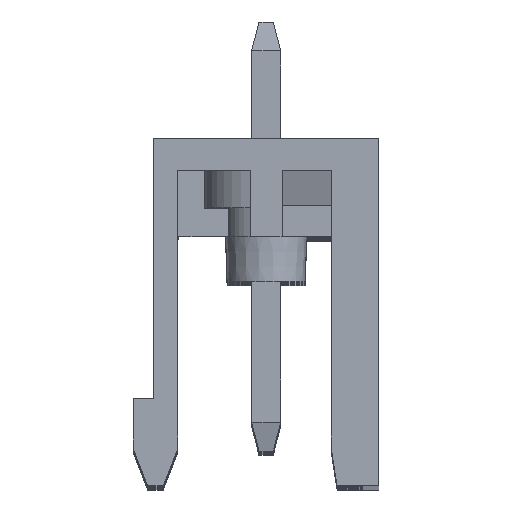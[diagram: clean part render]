
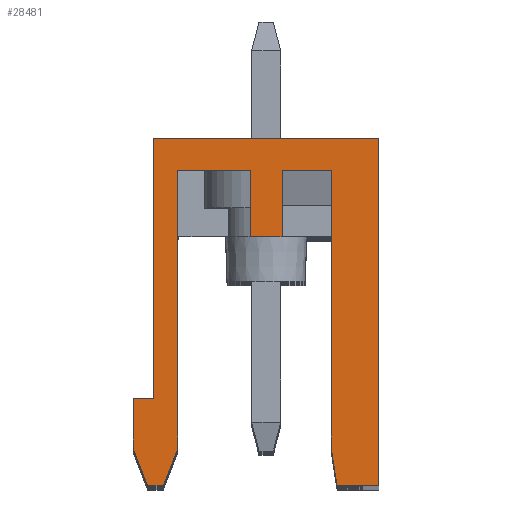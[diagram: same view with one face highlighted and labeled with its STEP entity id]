
A CAD part, top view. The second image highlights one B-rep face of the part: STEP entity #28481.
In plain terms, the highlighted planar face has unit normal (0, 0, 1).
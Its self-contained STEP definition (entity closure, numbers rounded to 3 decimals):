
#1059 = EDGE_CURVE ( 'NONE', #19224, #29034, #23728, .T. ) ;
#1220 = EDGE_CURVE ( 'NONE', #10906, #18423, #18345, .T. ) ;
#1261 = EDGE_CURVE ( 'NONE', #30268, #15527, #12116, .T. ) ;
#1555 = VERTEX_POINT ( 'NONE', #36991 ) ;
#2018 = DIRECTION ( 'NONE',  ( 0., 0., 1. ) ) ;
#2254 = DIRECTION ( 'NONE',  ( 1., 0., 0. ) ) ;
#2592 = CARTESIAN_POINT ( 'NONE',  ( 2.25, 1.3, 86.36 ) ) ;
#2601 = ORIENTED_EDGE ( 'NONE', *, *, #22480, .T. ) ;
#3141 = DIRECTION ( 'NONE',  ( 0., 1., 0. ) ) ;
#3703 = CARTESIAN_POINT ( 'NONE',  ( -3.9, 3., 86.36 ) ) ;
#3908 = DIRECTION ( 'NONE',  ( -1., 0., 0. ) ) ;
#3978 = ORIENTED_EDGE ( 'NONE', *, *, #20983, .T. ) ;
#5075 = LINE ( 'NONE', #31034, #31470 ) ;
#5295 = LINE ( 'NONE', #8090, #38899 ) ;
#5408 = VERTEX_POINT ( 'NONE', #7113 ) ;
#5612 = CARTESIAN_POINT ( 'NONE',  ( -4.1, 0., 86.36 ) ) ;
#5714 = CARTESIAN_POINT ( 'NONE',  ( -4.6, 1.3, 86.36 ) ) ;
#5752 = ORIENTED_EDGE ( 'NONE', *, *, #15881, .T. ) ;
#6458 = LINE ( 'NONE', #9880, #26786 ) ;
#7113 = CARTESIAN_POINT ( 'NONE',  ( -3.9, 12., 86.36 ) ) ;
#7510 = CARTESIAN_POINT ( 'NONE',  ( 0.55, 8.6, 86.36 ) ) ;
#8090 = CARTESIAN_POINT ( 'NONE',  ( -4.1, 0., 86.36 ) ) ;
#8878 = PLANE ( 'NONE',  #21502 ) ;
#9374 = LINE ( 'NONE', #19236, #35540 ) ;
#9534 = CARTESIAN_POINT ( 'NONE',  ( -4.6, 3., 86.36 ) ) ;
#9549 = DIRECTION ( 'NONE',  ( 0.152, -0.988, 0. ) ) ;
#9758 = EDGE_CURVE ( 'NONE', #25169, #5408, #38374, .T. ) ;
#9880 = CARTESIAN_POINT ( 'NONE',  ( -3.05, 1.3, 86.36 ) ) ;
#10057 = EDGE_CURVE ( 'NONE', #14205, #18547, #5075, .T. ) ;
#10678 = LINE ( 'NONE', #33010, #35434 ) ;
#10906 = VERTEX_POINT ( 'NONE', #41871 ) ;
#11999 = CARTESIAN_POINT ( 'NONE',  ( 2.25, 10.9, 86.36 ) ) ;
#12116 = LINE ( 'NONE', #12333, #23234 ) ;
#12333 = CARTESIAN_POINT ( 'NONE',  ( 2.45, 0., 86.36 ) ) ;
#12497 = LINE ( 'NONE', #38887, #20215 ) ;
#12529 = ORIENTED_EDGE ( 'NONE', *, *, #24294, .F. ) ;
#12766 = CARTESIAN_POINT ( 'NONE',  ( 2.25, 1.3, 86.36 ) ) ;
#13056 = ORIENTED_EDGE ( 'NONE', *, *, #30030, .T. ) ;
#14071 = CARTESIAN_POINT ( 'NONE',  ( -3.05, 10.9, 86.36 ) ) ;
#14187 = LINE ( 'NONE', #3703, #17777 ) ;
#14205 = VERTEX_POINT ( 'NONE', #9534 ) ;
#14247 = VERTEX_POINT ( 'NONE', #22842 ) ;
#14278 = DIRECTION ( 'NONE',  ( 0., -1., 0. ) ) ;
#14305 = VECTOR ( 'NONE', #39200, 1000. ) ;
#14752 = EDGE_CURVE ( 'NONE', #14247, #25366, #16760, .T. ) ;
#15527 = VERTEX_POINT ( 'NONE', #15771 ) ;
#15699 = VECTOR ( 'NONE', #14278, 1000. ) ;
#15771 = CARTESIAN_POINT ( 'NONE',  ( 3.9, 0., 86.36 ) ) ;
#15881 = EDGE_CURVE ( 'NONE', #5408, #1555, #12497, .T. ) ;
#15956 = VECTOR ( 'NONE', #3141, 1000. ) ;
#16529 = CARTESIAN_POINT ( 'NONE',  ( -0.55, 8.6, 86.36 ) ) ;
#16760 = LINE ( 'NONE', #32868, #37290 ) ;
#16794 = ORIENTED_EDGE ( 'NONE', *, *, #30736, .T. ) ;
#17777 = VECTOR ( 'NONE', #3908, 1000. ) ;
#17938 = DIRECTION ( 'NONE',  ( 0., -1., 0. ) ) ;
#18315 = FACE_OUTER_BOUND ( 'NONE', #35789, .T. ) ;
#18345 = LINE ( 'NONE', #14071, #15699 ) ;
#18390 = VECTOR ( 'NONE', #20589, 1000. ) ;
#18423 = VERTEX_POINT ( 'NONE', #40709 ) ;
#18443 = CARTESIAN_POINT ( 'NONE',  ( -3.55, 0., 86.36 ) ) ;
#18501 = VECTOR ( 'NONE', #9549, 1000. ) ;
#18547 = VERTEX_POINT ( 'NONE', #5714 ) ;
#19070 = EDGE_CURVE ( 'NONE', #28677, #25366, #36915, .T. ) ;
#19224 = VERTEX_POINT ( 'NONE', #11999 ) ;
#19236 = CARTESIAN_POINT ( 'NONE',  ( -0.55, 10.9, 86.36 ) ) ;
#19793 = CARTESIAN_POINT ( 'NONE',  ( 0.55, 8.6, 86.36 ) ) ;
#19906 = DIRECTION ( 'NONE',  ( 1., 0., 0. ) ) ;
#20064 = ORIENTED_EDGE ( 'NONE', *, *, #1059, .T. ) ;
#20160 = DIRECTION ( 'NONE',  ( -0.359, -0.933, 0. ) ) ;
#20215 = VECTOR ( 'NONE', #28801, 1000. ) ;
#20589 = DIRECTION ( 'NONE',  ( -1., 0., 0. ) ) ;
#20953 = ORIENTED_EDGE ( 'NONE', *, *, #38206, .T. ) ;
#20983 = EDGE_CURVE ( 'NONE', #15527, #25169, #29539, .T. ) ;
#21143 = VECTOR ( 'NONE', #39219, 1000. ) ;
#21182 = DIRECTION ( 'NONE',  ( -0.359, 0.933, 0. ) ) ;
#21502 = AXIS2_PLACEMENT_3D ( 'NONE', #41498, #2018, #25165 ) ;
#22137 = DIRECTION ( 'NONE',  ( 1., 0., 0. ) ) ;
#22450 = ORIENTED_EDGE ( 'NONE', *, *, #1261, .T. ) ;
#22466 = DIRECTION ( 'NONE',  ( -1., 0., 0. ) ) ;
#22480 = EDGE_CURVE ( 'NONE', #29034, #30268, #32928, .T. ) ;
#22649 = ORIENTED_EDGE ( 'NONE', *, *, #9758, .T. ) ;
#22782 = CARTESIAN_POINT ( 'NONE',  ( 2.45, 0., 86.36 ) ) ;
#22797 = DIRECTION ( 'NONE',  ( 0., -1., 0. ) ) ;
#22842 = CARTESIAN_POINT ( 'NONE',  ( -0.55, 10.9, 86.36 ) ) ;
#23090 = CARTESIAN_POINT ( 'NONE',  ( 2.25, 10.9, 86.36 ) ) ;
#23234 = VECTOR ( 'NONE', #2254, 1000. ) ;
#23728 = LINE ( 'NONE', #23090, #23906 ) ;
#23906 = VECTOR ( 'NONE', #33387, 1000. ) ;
#24148 = CARTESIAN_POINT ( 'NONE',  ( 0.55, 10.9, 86.36 ) ) ;
#24286 = CARTESIAN_POINT ( 'NONE',  ( 3.9, 12., 86.36 ) ) ;
#24294 = EDGE_CURVE ( 'NONE', #18423, #31214, #6458, .T. ) ;
#25165 = DIRECTION ( 'NONE',  ( 1., 0., 0. ) ) ;
#25169 = VERTEX_POINT ( 'NONE', #24286 ) ;
#25366 = VERTEX_POINT ( 'NONE', #16529 ) ;
#26304 = CARTESIAN_POINT ( 'NONE',  ( 3.9, 0., 86.36 ) ) ;
#26786 = VECTOR ( 'NONE', #20160, 1000. ) ;
#27834 = ORIENTED_EDGE ( 'NONE', *, *, #1220, .F. ) ;
#28240 = ORIENTED_EDGE ( 'NONE', *, *, #34891, .T. ) ;
#28481 = ADVANCED_FACE ( 'NONE', ( #18315 ), #8878, .T. ) ;
#28677 = VERTEX_POINT ( 'NONE', #19793 ) ;
#28801 = DIRECTION ( 'NONE',  ( 0., -1., 0. ) ) ;
#29034 = VERTEX_POINT ( 'NONE', #2592 ) ;
#29539 = LINE ( 'NONE', #26304, #14305 ) ;
#30030 = EDGE_CURVE ( 'NONE', #38037, #31214, #31156, .T. ) ;
#30268 = VERTEX_POINT ( 'NONE', #22782 ) ;
#30736 = EDGE_CURVE ( 'NONE', #31994, #19224, #10678, .T. ) ;
#30878 = EDGE_CURVE ( 'NONE', #38037, #18547, #5295, .T. ) ;
#31034 = CARTESIAN_POINT ( 'NONE',  ( -4.6, 3., 86.36 ) ) ;
#31156 = LINE ( 'NONE', #5612, #36703 ) ;
#31214 = VERTEX_POINT ( 'NONE', #18443 ) ;
#31470 = VECTOR ( 'NONE', #17938, 1000. ) ;
#31768 = EDGE_CURVE ( 'NONE', #14247, #10906, #9374, .T. ) ;
#31994 = VERTEX_POINT ( 'NONE', #24148 ) ;
#32528 = ORIENTED_EDGE ( 'NONE', *, *, #14752, .T. ) ;
#32868 = CARTESIAN_POINT ( 'NONE',  ( -0.55, 10.9, 86.36 ) ) ;
#32928 = LINE ( 'NONE', #12766, #18501 ) ;
#33010 = CARTESIAN_POINT ( 'NONE',  ( 0.55, 10.9, 86.36 ) ) ;
#33387 = DIRECTION ( 'NONE',  ( 0., -1., 0. ) ) ;
#34891 = EDGE_CURVE ( 'NONE', #1555, #14205, #14187, .T. ) ;
#35434 = VECTOR ( 'NONE', #19906, 1000. ) ;
#35540 = VECTOR ( 'NONE', #22466, 1000. ) ;
#35559 = LINE ( 'NONE', #41562, #15956 ) ;
#35789 = EDGE_LOOP ( 'NONE', ( #3978, #22649, #5752, #28240, #39590, #35832, #13056, #12529, #27834, #40574, #32528, #37065, #20953, #16794, #20064, #2601, #22450 ) ) ;
#35832 = ORIENTED_EDGE ( 'NONE', *, *, #30878, .F. ) ;
#36703 = VECTOR ( 'NONE', #22137, 1000. ) ;
#36915 = LINE ( 'NONE', #7510, #18390 ) ;
#36991 = CARTESIAN_POINT ( 'NONE',  ( -3.9, 3., 86.36 ) ) ;
#37065 = ORIENTED_EDGE ( 'NONE', *, *, #19070, .F. ) ;
#37290 = VECTOR ( 'NONE', #22797, 1000. ) ;
#37720 = CARTESIAN_POINT ( 'NONE',  ( -4.1, 0., 86.36 ) ) ;
#38037 = VERTEX_POINT ( 'NONE', #37720 ) ;
#38206 = EDGE_CURVE ( 'NONE', #28677, #31994, #35559, .T. ) ;
#38374 = LINE ( 'NONE', #42232, #21143 ) ;
#38887 = CARTESIAN_POINT ( 'NONE',  ( -3.9, 12., 86.36 ) ) ;
#38899 = VECTOR ( 'NONE', #21182, 1000. ) ;
#39200 = DIRECTION ( 'NONE',  ( 0., 1., 0. ) ) ;
#39219 = DIRECTION ( 'NONE',  ( -1., 0., 0. ) ) ;
#39590 = ORIENTED_EDGE ( 'NONE', *, *, #10057, .T. ) ;
#40574 = ORIENTED_EDGE ( 'NONE', *, *, #31768, .F. ) ;
#40709 = CARTESIAN_POINT ( 'NONE',  ( -3.05, 1.3, 86.36 ) ) ;
#41498 = CARTESIAN_POINT ( 'NONE',  ( -10.2, 16.267, 86.36 ) ) ;
#41562 = CARTESIAN_POINT ( 'NONE',  ( 0.55, 8.6, 86.36 ) ) ;
#41871 = CARTESIAN_POINT ( 'NONE',  ( -3.05, 10.9, 86.36 ) ) ;
#42232 = CARTESIAN_POINT ( 'NONE',  ( 3.9, 12., 86.36 ) ) ;
